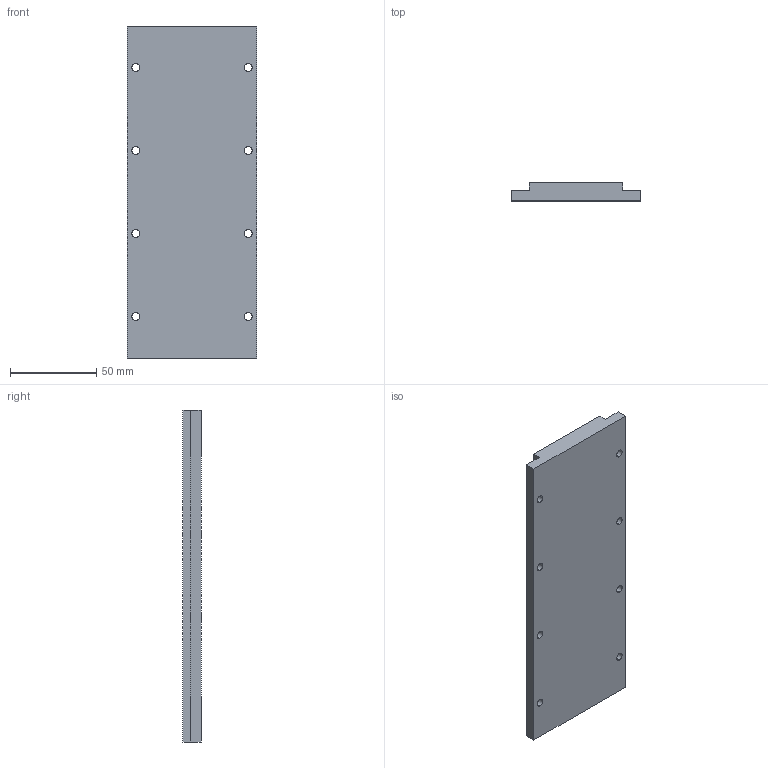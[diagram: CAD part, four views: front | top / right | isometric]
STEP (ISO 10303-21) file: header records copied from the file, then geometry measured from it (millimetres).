
FILE_DESCRIPTION (( 'STEP AP214' ), '1' );
FILE_NAME ('TLT-75-L192.STEP', '2022-04-13T09:13:38', ( 'Microsoft' ), ( 'Microsoft' ), 'SwSTEP 2.0', 'SolidWorks 2016', '' );
FILE_SCHEMA (( 'AUTOMOTIVE_DESIGN' ));
Length unit declared in the file: millimetre
Products named in the file (1): TLT-75-L192
Bounding box: 75 x 10.5 x 192 mm (x, y, z)
Volume: 132292.6 mm3; surface area: 34642.1 mm2
Topology: 1 solids, 1 shells, 26 faces, 72 edges, 48 vertices
Faces by surface type: cylinder 16, plane 10
Entity records: 914 total; most frequent: DIRECTION 158, CARTESIAN_POINT 147, ORIENTED_EDGE 144, EDGE_CURVE 72, AXIS2_PLACEMENT_3D 59, VERTEX_POINT 48, EDGE_LOOP 42, LINE 40
